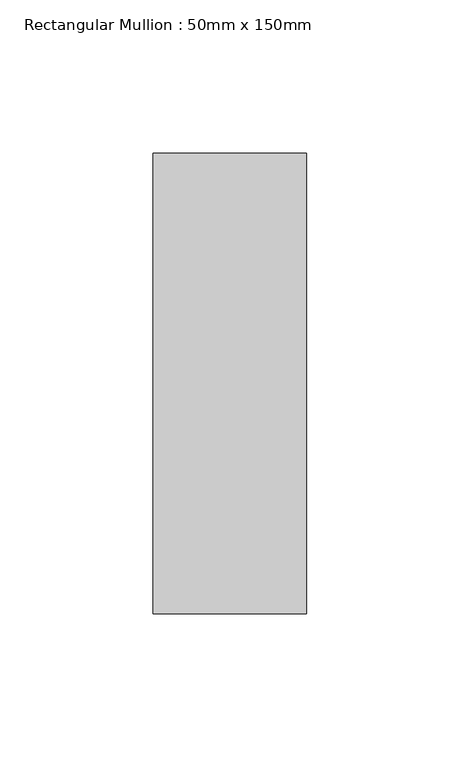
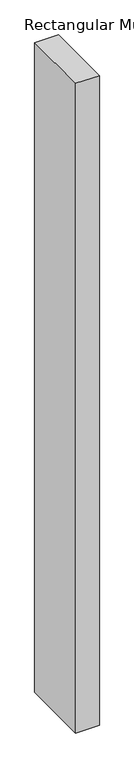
"""IFC4 building model written with IfcOpenShell, lengths in millimetres: member geometry, Rectangular Mullion : 50mm x 150mm."""

from ifc_helpers import new_model, si_unit, frame, origin, place, context, project, spatial, polyline, outline, extrude, source, transform, mapped, element, save


def rectangular_mullion_50mm_x_150mm_70cae3e1(model_context):
    return source(origin(), model_context, "Body", "SweptSolid", [
        extrude(outline(polyline([(0.0, 75.0), (0.0, -75.0), (-50.0, -75.0), (-50.0, 75.0), (0.0, 75.0)])), frame((0.0, 0.0, -1452.2476559), z_axis=(0.0, 0.0, 1.0), x_axis=(1.0, 0.0, 0.0)), (0.0, 0.0, 1.0), 1452.2476559),
    ])


if __name__ == "__main__":
    model = new_model("IFC4")
    model_context = context("Model", 3, world=origin())
    ifc_project = project(units=[si_unit("LENGTHUNIT", "METRE", prefix="MILLI")], contexts=[model_context])
    site = spatial("IfcSite", under=ifc_project)
    building = spatial("IfcBuilding", under=site)
    placement = place(None, origin())
    rectangular_mullion_50mm_x_150mm_shape = rectangular_mullion_50mm_x_150mm_70cae3e1(model_context)
    element("IfcMember", 1, ObjectType="Rectangular Mullion : 50mm x 150mm", at=placement, inside=building, context=model_context, shape_type="MappedRepresentation", body=[
        mapped(rectangular_mullion_50mm_x_150mm_shape, transform((0.0, 0.0, 0.0), x_axis=(1.0, 0.0, 0.0), y_axis=(0.0, 1.0, 0.0), z_axis=(0.0, 0.0, 1.0))),
    ])
    save(model, "model.ifc")
